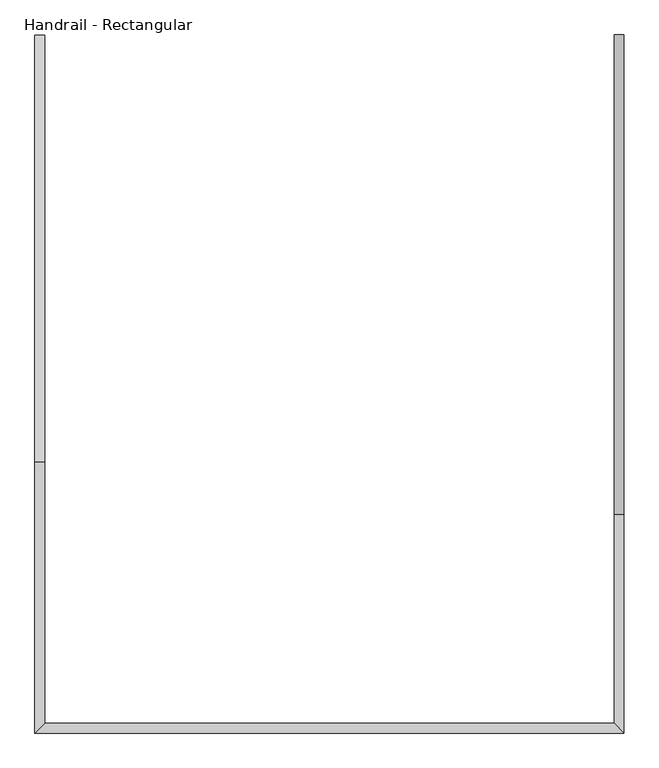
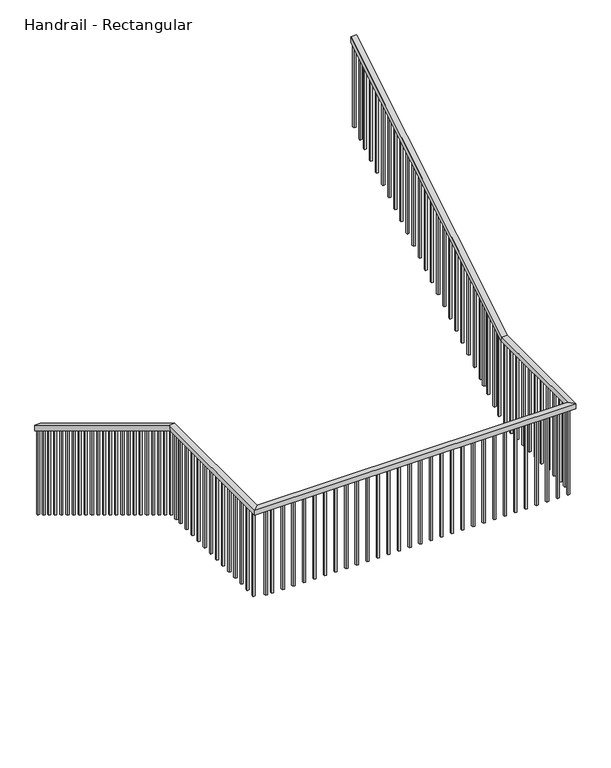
"""IFC4 building model written with IfcOpenShell, lengths in millimetres: railing geometry, Handrail - Rectangular."""

from ifc_helpers import new_model, si_unit, frame, origin, place, context, project, spatial, polyline, outline, extrude, faceted_brep, source, transform, mapped, element, save


def handrail_rectangular_fff20364(model_context):
    return source(origin(), model_context, "Body", "SolidModel", [
        faceted_brep([(-2597.1792336, -12204.7769844, 40707.7333333), (-2597.1792336, -12204.7769844, 40648.3318731), (-2647.9792336, -12204.7769844, 40648.3318731), (-2647.9792336, -12204.7769844, 40707.7333333), (-2597.1792336, -14439.9769844, 42062.4), (-2597.1792336, -14454.1693938, 42011.6), (-2647.9792336, -14454.1693938, 42011.6), (-2647.9792336, -14439.9769844, 42062.4), (-2597.1792336, -15811.5769844, 42062.4), (-2597.1792336, -15811.5769844, 42011.6), (-2647.9792336, -15862.3769844, 42011.6), (-2647.9792336, -15862.3769844, 42062.4), (388.9082664, -15811.5769844, 42062.4), (388.9082664, -15811.5769844, 42011.6), (439.7082664, -15862.3769844, 42011.6), (439.7082664, -15862.3769844, 42062.4), (388.9082664, -14719.3769844, 42062.4), (388.9082664, -14705.184575, 42011.6), (439.7082664, -14705.184575, 42011.6), (439.7082664, -14719.3769844, 42062.4), (388.9082664, -12204.7769844, 43586.4), (439.7082664, -12204.7769844, 43586.4), (439.7082664, -12204.7769844, 43526.9985397), (388.9082664, -12204.7769844, 43526.9985397)], [[[0, 1, 2, 3]], [[1, 0, 4, 5]], [[2, 1, 5, 6]], [[3, 2, 6, 7]], [[0, 3, 7, 4]], [[5, 4, 8, 9]], [[6, 5, 9, 10]], [[7, 6, 10, 11]], [[4, 7, 11, 8]], [[9, 8, 12, 13]], [[10, 9, 13, 14]], [[11, 10, 14, 15]], [[8, 11, 15, 12]], [[13, 12, 16, 17]], [[14, 13, 17, 18]], [[15, 14, 18, 19]], [[12, 15, 19, 16]], [[20, 21, 22, 23]], [[17, 16, 20, 23]], [[18, 17, 23, 22]], [[19, 18, 22, 21]], [[16, 19, 21, 20]]]),
        extrude(outline(polyline([(-12204.7769844, 42666.2272727), (-12223.8269844, 42666.2272727), (-12223.8269844, 43515.4530852), (-12204.7769844, 43526.9985397), (-12204.7769844, 42666.2272727)])), frame((404.7832664, 0.0, 0.0), z_axis=(1.0, 0.0, 0.0), x_axis=(0.0, 1.0, 0.0)), (0.0, 0.0, 1.0), 19.05),
        extrude(outline(polyline([(-12306.3769844, 42604.6515152), (-12325.4269844, 42604.6515152), (-12325.4269844, 43453.8773276), (-12306.3769844, 43465.4227822), (-12306.3769844, 42604.6515152)])), frame((404.7832664, 0.0, 0.0), z_axis=(1.0, 0.0, 0.0), x_axis=(0.0, 1.0, 0.0)), (0.0, 0.0, 1.0), 19.05),
        extrude(outline(polyline([(-12385.7519844, 42556.5454545), (-12404.8019844, 42556.5454545), (-12404.8019844, 43405.771267), (-12385.7519844, 43417.3167216), (-12385.7519844, 42556.5454545)])), frame((404.7832664, 0.0, 0.0), z_axis=(1.0, 0.0, 0.0), x_axis=(0.0, 1.0, 0.0)), (0.0, 0.0, 1.0), 19.05),
        extrude(outline(polyline([(-12484.1769844, 42496.8939394), (-12503.2269844, 42496.8939394), (-12503.2269844, 43346.1197519), (-12484.1769844, 43357.6652064), (-12484.1769844, 42496.8939394)])), frame((404.7832664, 0.0, 0.0), z_axis=(1.0, 0.0, 0.0), x_axis=(0.0, 1.0, 0.0)), (0.0, 0.0, 1.0), 19.05),
        extrude(outline(polyline([(-12585.7769844, 42435.3181818), (-12604.8269844, 42435.3181818), (-12604.8269844, 43284.5439943), (-12585.7769844, 43296.0894488), (-12585.7769844, 42435.3181818)])), frame((404.7832664, 0.0, 0.0), z_axis=(1.0, 0.0, 0.0), x_axis=(0.0, 1.0, 0.0)), (0.0, 0.0, 1.0), 19.05),
        extrude(outline(polyline([(-12687.3769844, 42373.7424242), (-12706.4269844, 42373.7424242), (-12706.4269844, 43222.9682367), (-12687.3769844, 43234.5136913), (-12687.3769844, 42373.7424242)])), frame((404.7832664, 0.0, 0.0), z_axis=(1.0, 0.0, 0.0), x_axis=(0.0, 1.0, 0.0)), (0.0, 0.0, 1.0), 19.05),
        extrude(outline(polyline([(-12788.9769844, 42312.1666667), (-12808.0269844, 42312.1666667), (-12808.0269844, 43161.3924791), (-12788.9769844, 43172.9379337), (-12788.9769844, 42312.1666667)])), frame((404.7832664, 0.0, 0.0), z_axis=(1.0, 0.0, 0.0), x_axis=(0.0, 1.0, 0.0)), (0.0, 0.0, 1.0), 19.05),
        extrude(outline(polyline([(-12890.5769844, 42250.5909091), (-12909.6269844, 42250.5909091), (-12909.6269844, 43099.8167216), (-12890.5769844, 43111.3621761), (-12890.5769844, 42250.5909091)])), frame((404.7832664, 0.0, 0.0), z_axis=(1.0, 0.0, 0.0), x_axis=(0.0, 1.0, 0.0)), (0.0, 0.0, 1.0), 19.05),
        extrude(outline(polyline([(-12992.1769844, 42189.0151515), (-13011.2269844, 42189.0151515), (-13011.2269844, 43038.240964), (-12992.1769844, 43049.7864185), (-12992.1769844, 42189.0151515)])), frame((404.7832664, 0.0, 0.0), z_axis=(1.0, 0.0, 0.0), x_axis=(0.0, 1.0, 0.0)), (0.0, 0.0, 1.0), 19.05),
        extrude(outline(polyline([(-13093.7769844, 42127.4393939), (-13112.8269844, 42127.4393939), (-13112.8269844, 42976.6652064), (-13093.7769844, 42988.210661), (-13093.7769844, 42127.4393939)])), frame((404.7832664, 0.0, 0.0), z_axis=(1.0, 0.0, 0.0), x_axis=(0.0, 1.0, 0.0)), (0.0, 0.0, 1.0), 19.05),
        extrude(outline(polyline([(-13195.3769844, 42065.8636364), (-13214.4269844, 42065.8636364), (-13214.4269844, 42915.0894488), (-13195.3769844, 42926.6349034), (-13195.3769844, 42065.8636364)])), frame((404.7832664, 0.0, 0.0), z_axis=(1.0, 0.0, 0.0), x_axis=(0.0, 1.0, 0.0)), (0.0, 0.0, 1.0), 19.05),
        extrude(outline(polyline([(-13296.9769844, 42004.2878788), (-13316.0269844, 42004.2878788), (-13316.0269844, 42853.5136913), (-13296.9769844, 42865.0591458), (-13296.9769844, 42004.2878788)])), frame((404.7832664, 0.0, 0.0), z_axis=(1.0, 0.0, 0.0), x_axis=(0.0, 1.0, 0.0)), (0.0, 0.0, 1.0), 19.05),
        extrude(outline(polyline([(-13398.5769844, 41942.7121212), (-13417.6269844, 41942.7121212), (-13417.6269844, 42791.9379337), (-13398.5769844, 42803.4833882), (-13398.5769844, 41942.7121212)])), frame((404.7832664, 0.0, 0.0), z_axis=(1.0, 0.0, 0.0), x_axis=(0.0, 1.0, 0.0)), (0.0, 0.0, 1.0), 19.05),
        extrude(outline(polyline([(-13500.1769844, 41881.1363636), (-13519.2269844, 41881.1363636), (-13519.2269844, 42730.3621761), (-13500.1769844, 42741.9076307), (-13500.1769844, 41881.1363636)])), frame((404.7832664, 0.0, 0.0), z_axis=(1.0, 0.0, 0.0), x_axis=(0.0, 1.0, 0.0)), (0.0, 0.0, 1.0), 19.05),
        extrude(outline(polyline([(-13601.7769844, 41819.5606061), (-13620.8269844, 41819.5606061), (-13620.8269844, 42668.7864185), (-13601.7769844, 42680.3318731), (-13601.7769844, 41819.5606061)])), frame((404.7832664, 0.0, 0.0), z_axis=(1.0, 0.0, 0.0), x_axis=(0.0, 1.0, 0.0)), (0.0, 0.0, 1.0), 19.05),
        extrude(outline(polyline([(-13703.3769844, 41757.9848485), (-13722.4269844, 41757.9848485), (-13722.4269844, 42607.210661), (-13703.3769844, 42618.7561155), (-13703.3769844, 41757.9848485)])), frame((404.7832664, 0.0, 0.0), z_axis=(1.0, 0.0, 0.0), x_axis=(0.0, 1.0, 0.0)), (0.0, 0.0, 1.0), 19.05),
        extrude(outline(polyline([(-13804.9769844, 41696.4090909), (-13824.0269844, 41696.4090909), (-13824.0269844, 42545.6349034), (-13804.9769844, 42557.1803579), (-13804.9769844, 41696.4090909)])), frame((404.7832664, 0.0, 0.0), z_axis=(1.0, 0.0, 0.0), x_axis=(0.0, 1.0, 0.0)), (0.0, 0.0, 1.0), 19.05),
        extrude(outline(polyline([(-13906.5769844, 41634.8333333), (-13925.6269844, 41634.8333333), (-13925.6269844, 42484.0591458), (-13906.5769844, 42495.6046004), (-13906.5769844, 41634.8333333)])), frame((404.7832664, 0.0, 0.0), z_axis=(1.0, 0.0, 0.0), x_axis=(0.0, 1.0, 0.0)), (0.0, 0.0, 1.0), 19.05),
        extrude(outline(polyline([(-14008.1769844, 41573.2575758), (-14027.2269844, 41573.2575758), (-14027.2269844, 42422.4833882), (-14008.1769844, 42434.0288428), (-14008.1769844, 41573.2575758)])), frame((404.7832664, 0.0, 0.0), z_axis=(1.0, 0.0, 0.0), x_axis=(0.0, 1.0, 0.0)), (0.0, 0.0, 1.0), 19.05),
        extrude(outline(polyline([(-14109.7769844, 41511.6818182), (-14128.8269844, 41511.6818182), (-14128.8269844, 42360.9076307), (-14109.7769844, 42372.4530852), (-14109.7769844, 41511.6818182)])), frame((404.7832664, 0.0, 0.0), z_axis=(1.0, 0.0, 0.0), x_axis=(0.0, 1.0, 0.0)), (0.0, 0.0, 1.0), 19.05),
        extrude(outline(polyline([(-14211.3769844, 41450.1060606), (-14230.4269844, 41450.1060606), (-14230.4269844, 42299.3318731), (-14211.3769844, 42310.8773276), (-14211.3769844, 41450.1060606)])), frame((404.7832664, 0.0, 0.0), z_axis=(1.0, 0.0, 0.0), x_axis=(0.0, 1.0, 0.0)), (0.0, 0.0, 1.0), 19.05),
        extrude(outline(polyline([(-14312.9769844, 41388.530303), (-14332.0269844, 41388.530303), (-14332.0269844, 42237.7561155), (-14312.9769844, 42249.30157), (-14312.9769844, 41388.530303)])), frame((404.7832664, 0.0, 0.0), z_axis=(1.0, 0.0, 0.0), x_axis=(0.0, 1.0, 0.0)), (0.0, 0.0, 1.0), 19.05),
        extrude(outline(polyline([(-14366.9519844, 41355.8181818), (-14386.0019844, 41355.8181818), (-14386.0019844, 42205.0439943), (-14366.9519844, 42216.5894488), (-14366.9519844, 41355.8181818)])), frame((404.7832664, 0.0, 0.0), z_axis=(1.0, 0.0, 0.0), x_axis=(0.0, 1.0, 0.0)), (0.0, 0.0, 1.0), 19.05),
        extrude(outline(polyline([(-14439.9769844, 41311.5606061), (-14459.0269844, 41311.5606061), (-14459.0269844, 42160.7864185), (-14439.9769844, 42172.3318731), (-14439.9769844, 41311.5606061)])), frame((404.7832664, 0.0, 0.0), z_axis=(1.0, 0.0, 0.0), x_axis=(0.0, 1.0, 0.0)), (0.0, 0.0, 1.0), 19.05),
        extrude(outline(polyline([(-14541.5769844, 41249.9848485), (-14560.6269844, 41249.9848485), (-14560.6269844, 42099.210661), (-14541.5769844, 42110.7561155), (-14541.5769844, 41249.9848485)])), frame((404.7832664, 0.0, 0.0), z_axis=(1.0, 0.0, 0.0), x_axis=(0.0, 1.0, 0.0)), (0.0, 0.0, 1.0), 19.05),
        extrude(outline(polyline([(-14620.9519844, 41201.8787879), (-14640.0019844, 41201.8787879), (-14640.0019844, 42051.1046004), (-14620.9519844, 42062.6500549), (-14620.9519844, 41201.8787879)])), frame((404.7832664, 0.0, 0.0), z_axis=(1.0, 0.0, 0.0), x_axis=(0.0, 1.0, 0.0)), (0.0, 0.0, 1.0), 19.05),
        extrude(outline(polyline([(404.7832664, -14738.4269844), (404.7832664, -14719.3769844), (423.8332664, -14719.3769844), (423.8332664, -14738.4269844), (404.7832664, -14738.4269844)])), frame((0.0, 0.0, 41148.0), z_axis=(0.0, 0.0, 1.0), x_axis=(1.0, 0.0, 0.0)), (0.0, 0.0, 1.0), 863.6),
        extrude(outline(polyline([(404.7832664, -14840.0269844), (404.7832664, -14820.9769844), (423.8332664, -14820.9769844), (423.8332664, -14840.0269844), (404.7832664, -14840.0269844)])), frame((0.0, 0.0, 41148.0), z_axis=(0.0, 0.0, 1.0), x_axis=(1.0, 0.0, 0.0)), (0.0, 0.0, 1.0), 863.6),
        extrude(outline(polyline([(404.7832664, -14941.6269844), (404.7832664, -14922.5769844), (423.8332664, -14922.5769844), (423.8332664, -14941.6269844), (404.7832664, -14941.6269844)])), frame((0.0, 0.0, 41148.0), z_axis=(0.0, 0.0, 1.0), x_axis=(1.0, 0.0, 0.0)), (0.0, 0.0, 1.0), 863.6),
        extrude(outline(polyline([(404.7832664, -15043.2269844), (404.7832664, -15024.1769844), (423.8332664, -15024.1769844), (423.8332664, -15043.2269844), (404.7832664, -15043.2269844)])), frame((0.0, 0.0, 41148.0), z_axis=(0.0, 0.0, 1.0), x_axis=(1.0, 0.0, 0.0)), (0.0, 0.0, 1.0), 863.6),
        extrude(outline(polyline([(404.7832664, -15144.8269844), (404.7832664, -15125.7769844), (423.8332664, -15125.7769844), (423.8332664, -15144.8269844), (404.7832664, -15144.8269844)])), frame((0.0, 0.0, 41148.0), z_axis=(0.0, 0.0, 1.0), x_axis=(1.0, 0.0, 0.0)), (0.0, 0.0, 1.0), 863.6),
        extrude(outline(polyline([(404.7832664, -15246.4269844), (404.7832664, -15227.3769844), (423.8332664, -15227.3769844), (423.8332664, -15246.4269844), (404.7832664, -15246.4269844)])), frame((0.0, 0.0, 41148.0), z_axis=(0.0, 0.0, 1.0), x_axis=(1.0, 0.0, 0.0)), (0.0, 0.0, 1.0), 863.6),
        extrude(outline(polyline([(404.7832664, -15348.0269844), (404.7832664, -15328.9769844), (423.8332664, -15328.9769844), (423.8332664, -15348.0269844), (404.7832664, -15348.0269844)])), frame((0.0, 0.0, 41148.0), z_axis=(0.0, 0.0, 1.0), x_axis=(1.0, 0.0, 0.0)), (0.0, 0.0, 1.0), 863.6),
        extrude(outline(polyline([(404.7832664, -15449.6269844), (404.7832664, -15430.5769844), (423.8332664, -15430.5769844), (423.8332664, -15449.6269844), (404.7832664, -15449.6269844)])), frame((0.0, 0.0, 41148.0), z_axis=(0.0, 0.0, 1.0), x_axis=(1.0, 0.0, 0.0)), (0.0, 0.0, 1.0), 863.6),
        extrude(outline(polyline([(404.7832664, -15551.2269844), (404.7832664, -15532.1769844), (423.8332664, -15532.1769844), (423.8332664, -15551.2269844), (404.7832664, -15551.2269844)])), frame((0.0, 0.0, 41148.0), z_axis=(0.0, 0.0, 1.0), x_axis=(1.0, 0.0, 0.0)), (0.0, 0.0, 1.0), 863.6),
        extrude(outline(polyline([(404.7832664, -15652.8269844), (404.7832664, -15633.7769844), (423.8332664, -15633.7769844), (423.8332664, -15652.8269844), (404.7832664, -15652.8269844)])), frame((0.0, 0.0, 41148.0), z_axis=(0.0, 0.0, 1.0), x_axis=(1.0, 0.0, 0.0)), (0.0, 0.0, 1.0), 863.6),
        extrude(outline(polyline([(404.7832664, -15732.2019844), (404.7832664, -15713.1519844), (423.8332664, -15713.1519844), (423.8332664, -15732.2019844), (404.7832664, -15732.2019844)])), frame((0.0, 0.0, 41148.0), z_axis=(0.0, 0.0, 1.0), x_axis=(1.0, 0.0, 0.0)), (0.0, 0.0, 1.0), 863.6),
        extrude(outline(polyline([(369.8582664, -15827.4519844), (388.9082664, -15827.4519844), (388.9082664, -15846.5019844), (369.8582664, -15846.5019844), (369.8582664, -15827.4519844)])), frame((0.0, 0.0, 41148.0), z_axis=(0.0, 0.0, 1.0), x_axis=(1.0, 0.0, 0.0)), (0.0, 0.0, 1.0), 863.6),
        extrude(outline(polyline([(268.2582664, -15827.4519844), (287.3082664, -15827.4519844), (287.3082664, -15846.5019844), (268.2582664, -15846.5019844), (268.2582664, -15827.4519844)])), frame((0.0, 0.0, 41148.0), z_axis=(0.0, 0.0, 1.0), x_axis=(1.0, 0.0, 0.0)), (0.0, 0.0, 1.0), 863.6),
        extrude(outline(polyline([(166.6582664, -15827.4519844), (185.7082664, -15827.4519844), (185.7082664, -15846.5019844), (166.6582664, -15846.5019844), (166.6582664, -15827.4519844)])), frame((0.0, 0.0, 41148.0), z_axis=(0.0, 0.0, 1.0), x_axis=(1.0, 0.0, 0.0)), (0.0, 0.0, 1.0), 863.6),
        extrude(outline(polyline([(65.0582664, -15827.4519844), (84.1082664, -15827.4519844), (84.1082664, -15846.5019844), (65.0582664, -15846.5019844), (65.0582664, -15827.4519844)])), frame((0.0, 0.0, 41148.0), z_axis=(0.0, 0.0, 1.0), x_axis=(1.0, 0.0, 0.0)), (0.0, 0.0, 1.0), 863.6),
        extrude(outline(polyline([(-36.5417336, -15827.4519844), (-17.4917336, -15827.4519844), (-17.4917336, -15846.5019844), (-36.5417336, -15846.5019844), (-36.5417336, -15827.4519844)])), frame((0.0, 0.0, 41148.0), z_axis=(0.0, 0.0, 1.0), x_axis=(1.0, 0.0, 0.0)), (0.0, 0.0, 1.0), 863.6),
        extrude(outline(polyline([(-138.1417336, -15827.4519844), (-119.0917336, -15827.4519844), (-119.0917336, -15846.5019844), (-138.1417336, -15846.5019844), (-138.1417336, -15827.4519844)])), frame((0.0, 0.0, 41148.0), z_axis=(0.0, 0.0, 1.0), x_axis=(1.0, 0.0, 0.0)), (0.0, 0.0, 1.0), 863.6),
        extrude(outline(polyline([(-239.7417336, -15827.4519844), (-220.6917336, -15827.4519844), (-220.6917336, -15846.5019844), (-239.7417336, -15846.5019844), (-239.7417336, -15827.4519844)])), frame((0.0, 0.0, 41148.0), z_axis=(0.0, 0.0, 1.0), x_axis=(1.0, 0.0, 0.0)), (0.0, 0.0, 1.0), 863.6),
        extrude(outline(polyline([(-341.3417336, -15827.4519844), (-322.2917336, -15827.4519844), (-322.2917336, -15846.5019844), (-341.3417336, -15846.5019844), (-341.3417336, -15827.4519844)])), frame((0.0, 0.0, 41148.0), z_axis=(0.0, 0.0, 1.0), x_axis=(1.0, 0.0, 0.0)), (0.0, 0.0, 1.0), 863.6),
        extrude(outline(polyline([(-442.9417336, -15827.4519844), (-423.8917336, -15827.4519844), (-423.8917336, -15846.5019844), (-442.9417336, -15846.5019844), (-442.9417336, -15827.4519844)])), frame((0.0, 0.0, 41148.0), z_axis=(0.0, 0.0, 1.0), x_axis=(1.0, 0.0, 0.0)), (0.0, 0.0, 1.0), 863.6),
        extrude(outline(polyline([(-544.5417336, -15827.4519844), (-525.4917336, -15827.4519844), (-525.4917336, -15846.5019844), (-544.5417336, -15846.5019844), (-544.5417336, -15827.4519844)])), frame((0.0, 0.0, 41148.0), z_axis=(0.0, 0.0, 1.0), x_axis=(1.0, 0.0, 0.0)), (0.0, 0.0, 1.0), 863.6),
        extrude(outline(polyline([(-646.1417336, -15827.4519844), (-627.0917336, -15827.4519844), (-627.0917336, -15846.5019844), (-646.1417336, -15846.5019844), (-646.1417336, -15827.4519844)])), frame((0.0, 0.0, 41148.0), z_axis=(0.0, 0.0, 1.0), x_axis=(1.0, 0.0, 0.0)), (0.0, 0.0, 1.0), 863.6),
        extrude(outline(polyline([(-747.7417336, -15827.4519844), (-728.6917336, -15827.4519844), (-728.6917336, -15846.5019844), (-747.7417336, -15846.5019844), (-747.7417336, -15827.4519844)])), frame((0.0, 0.0, 41148.0), z_axis=(0.0, 0.0, 1.0), x_axis=(1.0, 0.0, 0.0)), (0.0, 0.0, 1.0), 863.6),
        extrude(outline(polyline([(-849.3417336, -15827.4519844), (-830.2917336, -15827.4519844), (-830.2917336, -15846.5019844), (-849.3417336, -15846.5019844), (-849.3417336, -15827.4519844)])), frame((0.0, 0.0, 41148.0), z_axis=(0.0, 0.0, 1.0), x_axis=(1.0, 0.0, 0.0)), (0.0, 0.0, 1.0), 863.6),
        extrude(outline(polyline([(-950.9417336, -15827.4519844), (-931.8917336, -15827.4519844), (-931.8917336, -15846.5019844), (-950.9417336, -15846.5019844), (-950.9417336, -15827.4519844)])), frame((0.0, 0.0, 41148.0), z_axis=(0.0, 0.0, 1.0), x_axis=(1.0, 0.0, 0.0)), (0.0, 0.0, 1.0), 863.6),
        extrude(outline(polyline([(-1052.5417336, -15827.4519844), (-1033.4917336, -15827.4519844), (-1033.4917336, -15846.5019844), (-1052.5417336, -15846.5019844), (-1052.5417336, -15827.4519844)])), frame((0.0, 0.0, 41148.0), z_axis=(0.0, 0.0, 1.0), x_axis=(1.0, 0.0, 0.0)), (0.0, 0.0, 1.0), 863.6),
        extrude(outline(polyline([(-1154.1417336, -15827.4519844), (-1135.0917336, -15827.4519844), (-1135.0917336, -15846.5019844), (-1154.1417336, -15846.5019844), (-1154.1417336, -15827.4519844)])), frame((0.0, 0.0, 41148.0), z_axis=(0.0, 0.0, 1.0), x_axis=(1.0, 0.0, 0.0)), (0.0, 0.0, 1.0), 863.6),
        extrude(outline(polyline([(-1255.7417336, -15827.4519844), (-1236.6917336, -15827.4519844), (-1236.6917336, -15846.5019844), (-1255.7417336, -15846.5019844), (-1255.7417336, -15827.4519844)])), frame((0.0, 0.0, 41148.0), z_axis=(0.0, 0.0, 1.0), x_axis=(1.0, 0.0, 0.0)), (0.0, 0.0, 1.0), 863.6),
        extrude(outline(polyline([(-1357.3417336, -15827.4519844), (-1338.2917336, -15827.4519844), (-1338.2917336, -15846.5019844), (-1357.3417336, -15846.5019844), (-1357.3417336, -15827.4519844)])), frame((0.0, 0.0, 41148.0), z_axis=(0.0, 0.0, 1.0), x_axis=(1.0, 0.0, 0.0)), (0.0, 0.0, 1.0), 863.6),
        extrude(outline(polyline([(-1458.9417336, -15827.4519844), (-1439.8917336, -15827.4519844), (-1439.8917336, -15846.5019844), (-1458.9417336, -15846.5019844), (-1458.9417336, -15827.4519844)])), frame((0.0, 0.0, 41148.0), z_axis=(0.0, 0.0, 1.0), x_axis=(1.0, 0.0, 0.0)), (0.0, 0.0, 1.0), 863.6),
        extrude(outline(polyline([(-1560.5417336, -15827.4519844), (-1541.4917336, -15827.4519844), (-1541.4917336, -15846.5019844), (-1560.5417336, -15846.5019844), (-1560.5417336, -15827.4519844)])), frame((0.0, 0.0, 41148.0), z_axis=(0.0, 0.0, 1.0), x_axis=(1.0, 0.0, 0.0)), (0.0, 0.0, 1.0), 863.6),
        extrude(outline(polyline([(-1662.1417336, -15827.4519844), (-1643.0917336, -15827.4519844), (-1643.0917336, -15846.5019844), (-1662.1417336, -15846.5019844), (-1662.1417336, -15827.4519844)])), frame((0.0, 0.0, 41148.0), z_axis=(0.0, 0.0, 1.0), x_axis=(1.0, 0.0, 0.0)), (0.0, 0.0, 1.0), 863.6),
        extrude(outline(polyline([(-1763.7417336, -15827.4519844), (-1744.6917336, -15827.4519844), (-1744.6917336, -15846.5019844), (-1763.7417336, -15846.5019844), (-1763.7417336, -15827.4519844)])), frame((0.0, 0.0, 41148.0), z_axis=(0.0, 0.0, 1.0), x_axis=(1.0, 0.0, 0.0)), (0.0, 0.0, 1.0), 863.6),
        extrude(outline(polyline([(-1865.3417336, -15827.4519844), (-1846.2917336, -15827.4519844), (-1846.2917336, -15846.5019844), (-1865.3417336, -15846.5019844), (-1865.3417336, -15827.4519844)])), frame((0.0, 0.0, 41148.0), z_axis=(0.0, 0.0, 1.0), x_axis=(1.0, 0.0, 0.0)), (0.0, 0.0, 1.0), 863.6),
        extrude(outline(polyline([(-1966.9417336, -15827.4519844), (-1947.8917336, -15827.4519844), (-1947.8917336, -15846.5019844), (-1966.9417336, -15846.5019844), (-1966.9417336, -15827.4519844)])), frame((0.0, 0.0, 41148.0), z_axis=(0.0, 0.0, 1.0), x_axis=(1.0, 0.0, 0.0)), (0.0, 0.0, 1.0), 863.6),
        extrude(outline(polyline([(-2068.5417336, -15827.4519844), (-2049.4917336, -15827.4519844), (-2049.4917336, -15846.5019844), (-2068.5417336, -15846.5019844), (-2068.5417336, -15827.4519844)])), frame((0.0, 0.0, 41148.0), z_axis=(0.0, 0.0, 1.0), x_axis=(1.0, 0.0, 0.0)), (0.0, 0.0, 1.0), 863.6),
        extrude(outline(polyline([(-2170.1417336, -15827.4519844), (-2151.0917336, -15827.4519844), (-2151.0917336, -15846.5019844), (-2170.1417336, -15846.5019844), (-2170.1417336, -15827.4519844)])), frame((0.0, 0.0, 41148.0), z_axis=(0.0, 0.0, 1.0), x_axis=(1.0, 0.0, 0.0)), (0.0, 0.0, 1.0), 863.6),
        extrude(outline(polyline([(-2271.7417336, -15827.4519844), (-2252.6917336, -15827.4519844), (-2252.6917336, -15846.5019844), (-2271.7417336, -15846.5019844), (-2271.7417336, -15827.4519844)])), frame((0.0, 0.0, 41148.0), z_axis=(0.0, 0.0, 1.0), x_axis=(1.0, 0.0, 0.0)), (0.0, 0.0, 1.0), 863.6),
        extrude(outline(polyline([(-2373.3417336, -15827.4519844), (-2354.2917336, -15827.4519844), (-2354.2917336, -15846.5019844), (-2373.3417336, -15846.5019844), (-2373.3417336, -15827.4519844)])), frame((0.0, 0.0, 41148.0), z_axis=(0.0, 0.0, 1.0), x_axis=(1.0, 0.0, 0.0)), (0.0, 0.0, 1.0), 863.6),
        extrude(outline(polyline([(-2474.9417336, -15827.4519844), (-2455.8917336, -15827.4519844), (-2455.8917336, -15846.5019844), (-2474.9417336, -15846.5019844), (-2474.9417336, -15827.4519844)])), frame((0.0, 0.0, 41148.0), z_axis=(0.0, 0.0, 1.0), x_axis=(1.0, 0.0, 0.0)), (0.0, 0.0, 1.0), 863.6),
        extrude(outline(polyline([(-2536.0604836, -15827.4519844), (-2517.0104836, -15827.4519844), (-2517.0104836, -15846.5019844), (-2536.0604836, -15846.5019844), (-2536.0604836, -15827.4519844)])), frame((0.0, 0.0, 41148.0), z_axis=(0.0, 0.0, 1.0), x_axis=(1.0, 0.0, 0.0)), (0.0, 0.0, 1.0), 863.6),
        extrude(outline(polyline([(-2613.0542336, -15792.5269844), (-2613.0542336, -15811.5769844), (-2632.1042336, -15811.5769844), (-2632.1042336, -15792.5269844), (-2613.0542336, -15792.5269844)])), frame((0.0, 0.0, 41148.0), z_axis=(0.0, 0.0, 1.0), x_axis=(1.0, 0.0, 0.0)), (0.0, 0.0, 1.0), 863.6),
        extrude(outline(polyline([(-2613.0542336, -15690.9269844), (-2613.0542336, -15709.9769844), (-2632.1042336, -15709.9769844), (-2632.1042336, -15690.9269844), (-2613.0542336, -15690.9269844)])), frame((0.0, 0.0, 41148.0), z_axis=(0.0, 0.0, 1.0), x_axis=(1.0, 0.0, 0.0)), (0.0, 0.0, 1.0), 863.6),
        extrude(outline(polyline([(-2613.0542336, -15589.3269844), (-2613.0542336, -15608.3769844), (-2632.1042336, -15608.3769844), (-2632.1042336, -15589.3269844), (-2613.0542336, -15589.3269844)])), frame((0.0, 0.0, 41148.0), z_axis=(0.0, 0.0, 1.0), x_axis=(1.0, 0.0, 0.0)), (0.0, 0.0, 1.0), 863.6),
        extrude(outline(polyline([(-2613.0542336, -15487.7269844), (-2613.0542336, -15506.7769844), (-2632.1042336, -15506.7769844), (-2632.1042336, -15487.7269844), (-2613.0542336, -15487.7269844)])), frame((0.0, 0.0, 41148.0), z_axis=(0.0, 0.0, 1.0), x_axis=(1.0, 0.0, 0.0)), (0.0, 0.0, 1.0), 863.6),
        extrude(outline(polyline([(-2613.0542336, -15386.1269844), (-2613.0542336, -15405.1769844), (-2632.1042336, -15405.1769844), (-2632.1042336, -15386.1269844), (-2613.0542336, -15386.1269844)])), frame((0.0, 0.0, 41148.0), z_axis=(0.0, 0.0, 1.0), x_axis=(1.0, 0.0, 0.0)), (0.0, 0.0, 1.0), 863.6),
        extrude(outline(polyline([(-2613.0542336, -15284.5269844), (-2613.0542336, -15303.5769844), (-2632.1042336, -15303.5769844), (-2632.1042336, -15284.5269844), (-2613.0542336, -15284.5269844)])), frame((0.0, 0.0, 41148.0), z_axis=(0.0, 0.0, 1.0), x_axis=(1.0, 0.0, 0.0)), (0.0, 0.0, 1.0), 863.6),
        extrude(outline(polyline([(-2613.0542336, -15182.9269844), (-2613.0542336, -15201.9769844), (-2632.1042336, -15201.9769844), (-2632.1042336, -15182.9269844), (-2613.0542336, -15182.9269844)])), frame((0.0, 0.0, 41148.0), z_axis=(0.0, 0.0, 1.0), x_axis=(1.0, 0.0, 0.0)), (0.0, 0.0, 1.0), 863.6),
        extrude(outline(polyline([(-2613.0542336, -15081.3269844), (-2613.0542336, -15100.3769844), (-2632.1042336, -15100.3769844), (-2632.1042336, -15081.3269844), (-2613.0542336, -15081.3269844)])), frame((0.0, 0.0, 41148.0), z_axis=(0.0, 0.0, 1.0), x_axis=(1.0, 0.0, 0.0)), (0.0, 0.0, 1.0), 863.6),
        extrude(outline(polyline([(-2613.0542336, -14979.7269844), (-2613.0542336, -14998.7769844), (-2632.1042336, -14998.7769844), (-2632.1042336, -14979.7269844), (-2613.0542336, -14979.7269844)])), frame((0.0, 0.0, 41148.0), z_axis=(0.0, 0.0, 1.0), x_axis=(1.0, 0.0, 0.0)), (0.0, 0.0, 1.0), 863.6),
        extrude(outline(polyline([(-2613.0542336, -14878.1269844), (-2613.0542336, -14897.1769844), (-2632.1042336, -14897.1769844), (-2632.1042336, -14878.1269844), (-2613.0542336, -14878.1269844)])), frame((0.0, 0.0, 41148.0), z_axis=(0.0, 0.0, 1.0), x_axis=(1.0, 0.0, 0.0)), (0.0, 0.0, 1.0), 863.6),
        extrude(outline(polyline([(-2613.0542336, -14776.5269844), (-2613.0542336, -14795.5769844), (-2632.1042336, -14795.5769844), (-2632.1042336, -14776.5269844), (-2613.0542336, -14776.5269844)])), frame((0.0, 0.0, 41148.0), z_axis=(0.0, 0.0, 1.0), x_axis=(1.0, 0.0, 0.0)), (0.0, 0.0, 1.0), 863.6),
        extrude(outline(polyline([(-2613.0542336, -14674.9269844), (-2613.0542336, -14693.9769844), (-2632.1042336, -14693.9769844), (-2632.1042336, -14674.9269844), (-2613.0542336, -14674.9269844)])), frame((0.0, 0.0, 41148.0), z_axis=(0.0, 0.0, 1.0), x_axis=(1.0, 0.0, 0.0)), (0.0, 0.0, 1.0), 863.6),
        extrude(outline(polyline([(-2613.0542336, -14573.3269844), (-2613.0542336, -14592.3769844), (-2632.1042336, -14592.3769844), (-2632.1042336, -14573.3269844), (-2613.0542336, -14573.3269844)])), frame((0.0, 0.0, 41148.0), z_axis=(0.0, 0.0, 1.0), x_axis=(1.0, 0.0, 0.0)), (0.0, 0.0, 1.0), 863.6),
        extrude(outline(polyline([(-2613.0542336, -14506.6519844), (-2613.0542336, -14525.7019844), (-2632.1042336, -14525.7019844), (-2632.1042336, -14506.6519844), (-2613.0542336, -14506.6519844)])), frame((0.0, 0.0, 41148.0), z_axis=(0.0, 0.0, 1.0), x_axis=(1.0, 0.0, 0.0)), (0.0, 0.0, 1.0), 863.6),
        extrude(outline(polyline([(-14420.9269844, 41142.2272727), (-14439.9769844, 41142.2272727), (-14439.9769844, 42002.9985397), (-14420.9269844, 41991.4530852), (-14420.9269844, 41142.2272727)])), frame((-2632.1042336, 0.0, 0.0), z_axis=(1.0, 0.0, 0.0), x_axis=(0.0, 1.0, 0.0)), (0.0, 0.0, 1.0), 19.05),
        extrude(outline(polyline([(-14319.3269844, 41080.6515152), (-14338.3769844, 41080.6515152), (-14338.3769844, 41941.4227822), (-14319.3269844, 41929.8773276), (-14319.3269844, 41080.6515152)])), frame((-2632.1042336, 0.0, 0.0), z_axis=(1.0, 0.0, 0.0), x_axis=(0.0, 1.0, 0.0)), (0.0, 0.0, 1.0), 19.05),
        extrude(outline(polyline([(-14217.7269844, 41019.0757576), (-14236.7769844, 41019.0757576), (-14236.7769844, 41879.8470246), (-14217.7269844, 41868.30157), (-14217.7269844, 41019.0757576)])), frame((-2632.1042336, 0.0, 0.0), z_axis=(1.0, 0.0, 0.0), x_axis=(0.0, 1.0, 0.0)), (0.0, 0.0, 1.0), 19.05),
        extrude(outline(polyline([(-14116.1269844, 40957.5), (-14135.1769844, 40957.5), (-14135.1769844, 41818.271267), (-14116.1269844, 41806.7258125), (-14116.1269844, 40957.5)])), frame((-2632.1042336, 0.0, 0.0), z_axis=(1.0, 0.0, 0.0), x_axis=(0.0, 1.0, 0.0)), (0.0, 0.0, 1.0), 19.05),
        extrude(outline(polyline([(-14014.5269844, 40895.9242424), (-14033.5769844, 40895.9242424), (-14033.5769844, 41756.6955094), (-14014.5269844, 41745.1500549), (-14014.5269844, 40895.9242424)])), frame((-2632.1042336, 0.0, 0.0), z_axis=(1.0, 0.0, 0.0), x_axis=(0.0, 1.0, 0.0)), (0.0, 0.0, 1.0), 19.05),
        extrude(outline(polyline([(-13912.9269844, 40834.3484848), (-13931.9769844, 40834.3484848), (-13931.9769844, 41695.1197519), (-13912.9269844, 41683.5742973), (-13912.9269844, 40834.3484848)])), frame((-2632.1042336, 0.0, 0.0), z_axis=(1.0, 0.0, 0.0), x_axis=(0.0, 1.0, 0.0)), (0.0, 0.0, 1.0), 19.05),
        extrude(outline(polyline([(-13811.3269844, 40772.7727273), (-13830.3769844, 40772.7727273), (-13830.3769844, 41633.5439943), (-13811.3269844, 41621.9985397), (-13811.3269844, 40772.7727273)])), frame((-2632.1042336, 0.0, 0.0), z_axis=(1.0, 0.0, 0.0), x_axis=(0.0, 1.0, 0.0)), (0.0, 0.0, 1.0), 19.05),
        extrude(outline(polyline([(-13709.7269844, 40711.1969697), (-13728.7769844, 40711.1969697), (-13728.7769844, 41571.9682367), (-13709.7269844, 41560.4227822), (-13709.7269844, 40711.1969697)])), frame((-2632.1042336, 0.0, 0.0), z_axis=(1.0, 0.0, 0.0), x_axis=(0.0, 1.0, 0.0)), (0.0, 0.0, 1.0), 19.05),
        extrude(outline(polyline([(-13608.1269844, 40649.6212121), (-13627.1769844, 40649.6212121), (-13627.1769844, 41510.3924791), (-13608.1269844, 41498.8470246), (-13608.1269844, 40649.6212121)])), frame((-2632.1042336, 0.0, 0.0), z_axis=(1.0, 0.0, 0.0), x_axis=(0.0, 1.0, 0.0)), (0.0, 0.0, 1.0), 19.05),
        extrude(outline(polyline([(-13506.5269844, 40588.0454545), (-13525.5769844, 40588.0454545), (-13525.5769844, 41448.8167216), (-13506.5269844, 41437.271267), (-13506.5269844, 40588.0454545)])), frame((-2632.1042336, 0.0, 0.0), z_axis=(1.0, 0.0, 0.0), x_axis=(0.0, 1.0, 0.0)), (0.0, 0.0, 1.0), 19.05),
        extrude(outline(polyline([(-13404.9269844, 40526.469697), (-13423.9769844, 40526.469697), (-13423.9769844, 41387.240964), (-13404.9269844, 41375.6955094), (-13404.9269844, 40526.469697)])), frame((-2632.1042336, 0.0, 0.0), z_axis=(1.0, 0.0, 0.0), x_axis=(0.0, 1.0, 0.0)), (0.0, 0.0, 1.0), 19.05),
        extrude(outline(polyline([(-13303.3269844, 40464.8939394), (-13322.3769844, 40464.8939394), (-13322.3769844, 41325.6652064), (-13303.3269844, 41314.1197519), (-13303.3269844, 40464.8939394)])), frame((-2632.1042336, 0.0, 0.0), z_axis=(1.0, 0.0, 0.0), x_axis=(0.0, 1.0, 0.0)), (0.0, 0.0, 1.0), 19.05),
        extrude(outline(polyline([(-13201.7269844, 40403.3181818), (-13220.7769844, 40403.3181818), (-13220.7769844, 41264.0894488), (-13201.7269844, 41252.5439943), (-13201.7269844, 40403.3181818)])), frame((-2632.1042336, 0.0, 0.0), z_axis=(1.0, 0.0, 0.0), x_axis=(0.0, 1.0, 0.0)), (0.0, 0.0, 1.0), 19.05),
        extrude(outline(polyline([(-13100.1269844, 40341.7424242), (-13119.1769844, 40341.7424242), (-13119.1769844, 41202.5136913), (-13100.1269844, 41190.9682367), (-13100.1269844, 40341.7424242)])), frame((-2632.1042336, 0.0, 0.0), z_axis=(1.0, 0.0, 0.0), x_axis=(0.0, 1.0, 0.0)), (0.0, 0.0, 1.0), 19.05),
        extrude(outline(polyline([(-12998.5269844, 40280.1666667), (-13017.5769844, 40280.1666667), (-13017.5769844, 41140.9379337), (-12998.5269844, 41129.3924791), (-12998.5269844, 40280.1666667)])), frame((-2632.1042336, 0.0, 0.0), z_axis=(1.0, 0.0, 0.0), x_axis=(0.0, 1.0, 0.0)), (0.0, 0.0, 1.0), 19.05),
        extrude(outline(polyline([(-12896.9269844, 40218.5909091), (-12915.9769844, 40218.5909091), (-12915.9769844, 41079.3621761), (-12896.9269844, 41067.8167216), (-12896.9269844, 40218.5909091)])), frame((-2632.1042336, 0.0, 0.0), z_axis=(1.0, 0.0, 0.0), x_axis=(0.0, 1.0, 0.0)), (0.0, 0.0, 1.0), 19.05),
        extrude(outline(polyline([(-12795.3269844, 40157.0151515), (-12814.3769844, 40157.0151515), (-12814.3769844, 41017.7864185), (-12795.3269844, 41006.240964), (-12795.3269844, 40157.0151515)])), frame((-2632.1042336, 0.0, 0.0), z_axis=(1.0, 0.0, 0.0), x_axis=(0.0, 1.0, 0.0)), (0.0, 0.0, 1.0), 19.05),
        extrude(outline(polyline([(-12693.7269844, 40095.4393939), (-12712.7769844, 40095.4393939), (-12712.7769844, 40956.210661), (-12693.7269844, 40944.6652064), (-12693.7269844, 40095.4393939)])), frame((-2632.1042336, 0.0, 0.0), z_axis=(1.0, 0.0, 0.0), x_axis=(0.0, 1.0, 0.0)), (0.0, 0.0, 1.0), 19.05),
        extrude(outline(polyline([(-12592.1269844, 40033.8636364), (-12611.1769844, 40033.8636364), (-12611.1769844, 40894.6349034), (-12592.1269844, 40883.0894488), (-12592.1269844, 40033.8636364)])), frame((-2632.1042336, 0.0, 0.0), z_axis=(1.0, 0.0, 0.0), x_axis=(0.0, 1.0, 0.0)), (0.0, 0.0, 1.0), 19.05),
        extrude(outline(polyline([(-12490.5269844, 39972.2878788), (-12509.5769844, 39972.2878788), (-12509.5769844, 40833.0591458), (-12490.5269844, 40821.5136913), (-12490.5269844, 39972.2878788)])), frame((-2632.1042336, 0.0, 0.0), z_axis=(1.0, 0.0, 0.0), x_axis=(0.0, 1.0, 0.0)), (0.0, 0.0, 1.0), 19.05),
        extrude(outline(polyline([(-12388.9269844, 39910.7121212), (-12407.9769844, 39910.7121212), (-12407.9769844, 40771.4833882), (-12388.9269844, 40759.9379337), (-12388.9269844, 39910.7121212)])), frame((-2632.1042336, 0.0, 0.0), z_axis=(1.0, 0.0, 0.0), x_axis=(0.0, 1.0, 0.0)), (0.0, 0.0, 1.0), 19.05),
        extrude(outline(polyline([(-12296.8519844, 39854.9090909), (-12315.9019844, 39854.9090909), (-12315.9019844, 40715.6803579), (-12296.8519844, 40704.1349034), (-12296.8519844, 39854.9090909)])), frame((-2632.1042336, 0.0, 0.0), z_axis=(1.0, 0.0, 0.0), x_axis=(0.0, 1.0, 0.0)), (0.0, 0.0, 1.0), 19.05),
        extrude(outline(polyline([(-12204.7769844, 39799.1060606), (-12223.8269844, 39799.1060606), (-12223.8269844, 40659.8773276), (-12204.7769844, 40648.3318731), (-12204.7769844, 39799.1060606)])), frame((-2632.1042336, 0.0, 0.0), z_axis=(1.0, 0.0, 0.0), x_axis=(0.0, 1.0, 0.0)), (0.0, 0.0, 1.0), 19.05),
    ])


if __name__ == "__main__":
    model = new_model("IFC4")
    model_context = context("Model", 3, world=origin())
    ifc_project = project(units=[si_unit("LENGTHUNIT", "METRE", prefix="MILLI")], contexts=[model_context])
    site = spatial("IfcSite", under=ifc_project)
    building = spatial("IfcBuilding", under=site)
    placement = place(None, origin())
    handrail_rectangular_shape = handrail_rectangular_fff20364(model_context)
    element("IfcRailing", 1, ObjectType="Handrail - Rectangular", at=placement, inside=building, context=model_context, shape_type="MappedRepresentation", body=[
        mapped(handrail_rectangular_shape, transform((0.0, 0.0, 0.0), x_axis=(1.0, 0.0, 0.0), y_axis=(0.0, 1.0, 0.0), z_axis=(0.0, 0.0, 1.0))),
    ])
    save(model, "model.ifc")
